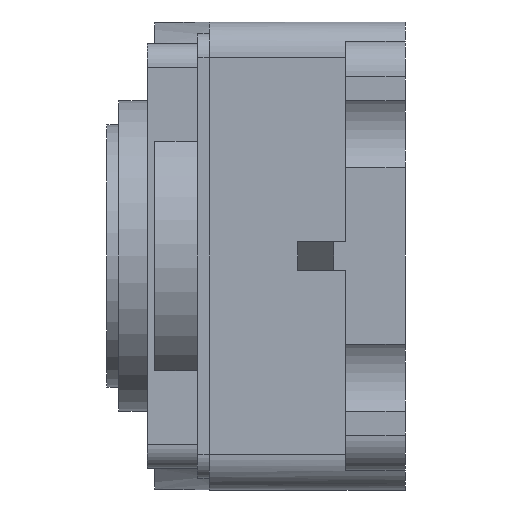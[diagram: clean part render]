
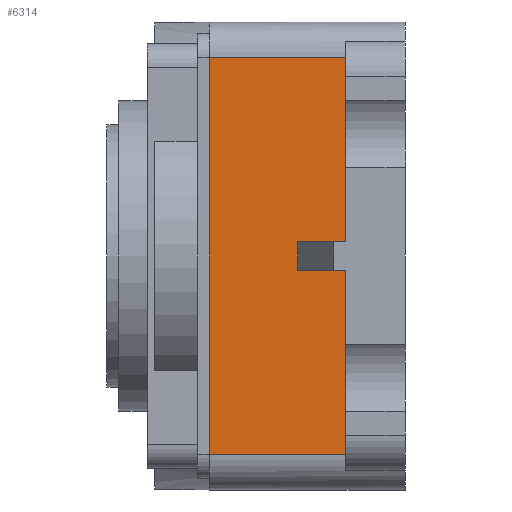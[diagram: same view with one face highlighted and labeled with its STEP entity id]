
A CAD part, front view. The second image highlights one B-rep face of the part: STEP entity #6314.
In plain terms, the highlighted planar face has unit normal (0, -1, 0).
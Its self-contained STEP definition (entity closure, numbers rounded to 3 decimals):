
#377 = CYLINDRICAL_SURFACE('',#378,1.5);
#378 = AXIS2_PLACEMENT_3D('',#379,#380,#381);
#379 = CARTESIAN_POINT('',(50.723,-0.7,252.8));
#380 = DIRECTION('',(1.,0.,0.));
#381 = DIRECTION('',(0.,0.,1.));
#782 = CYLINDRICAL_SURFACE('',#783,1.5);
#783 = AXIS2_PLACEMENT_3D('',#784,#785,#786);
#784 = CARTESIAN_POINT('',(50.723,-0.7,236.2));
#785 = DIRECTION('',(1.,0.,0.));
#786 = DIRECTION('',(0.,-1.,0.));
#2115 = PLANE('',#2116);
#2116 = AXIS2_PLACEMENT_3D('',#2117,#2118,#2119);
#2117 = CARTESIAN_POINT('',(50.8,18.,244.5));
#2118 = DIRECTION('',(-1.,0.,0.));
#2119 = DIRECTION('',(0.,1.,0.));
#2327 = VERTEX_POINT('',#2328);
#2328 = CARTESIAN_POINT('',(50.8,-2.2,236.2));
#2354 = EDGE_CURVE('',#2355,#2327,#2357,.T.);
#2355 = VERTEX_POINT('',#2356);
#2356 = CARTESIAN_POINT('',(50.8,-2.2,252.8));
#2357 = SURFACE_CURVE('',#2358,(#2362,#2369),.PCURVE_S1.);
#2358 = LINE('',#2359,#2360);
#2359 = CARTESIAN_POINT('',(50.8,-2.2,244.5));
#2360 = VECTOR('',#2361,1.);
#2361 = DIRECTION('',(0.,0.,-1.));
#2362 = PCURVE('',#2115,#2363);
#2363 = DEFINITIONAL_REPRESENTATION('',(#2364),#2368);
#2364 = LINE('',#2365,#2366);
#2365 = CARTESIAN_POINT('',(-20.2,0.));
#2366 = VECTOR('',#2367,1.);
#2367 = DIRECTION('',(0.,1.));
#2368 = ( GEOMETRIC_REPRESENTATION_CONTEXT(2) 
PARAMETRIC_REPRESENTATION_CONTEXT() REPRESENTATION_CONTEXT('2D SPACE',''
  ) );
#2369 = PCURVE('',#2370,#2375);
#2370 = PLANE('',#2371);
#2371 = AXIS2_PLACEMENT_3D('',#2372,#2373,#2374);
#2372 = CARTESIAN_POINT('',(59.,-2.2,234.7));
#2373 = DIRECTION('',(0.,-1.,0.));
#2374 = DIRECTION('',(0.,0.,1.));
#2375 = DEFINITIONAL_REPRESENTATION('',(#2376),#2380);
#2376 = LINE('',#2377,#2378);
#2377 = CARTESIAN_POINT('',(9.8,8.2));
#2378 = VECTOR('',#2379,1.);
#2379 = DIRECTION('',(-1.,0.));
#2380 = ( GEOMETRIC_REPRESENTATION_CONTEXT(2) 
PARAMETRIC_REPRESENTATION_CONTEXT() REPRESENTATION_CONTEXT('2D SPACE',''
  ) );
#5197 = EDGE_CURVE('',#2355,#5198,#5200,.T.);
#5198 = VERTEX_POINT('',#5199);
#5199 = CARTESIAN_POINT('',(56.5,-2.2,252.8));
#5200 = SURFACE_CURVE('',#5201,(#5205,#5212),.PCURVE_S1.);
#5201 = LINE('',#5202,#5203);
#5202 = CARTESIAN_POINT('',(50.723,-2.2,252.8));
#5203 = VECTOR('',#5204,1.);
#5204 = DIRECTION('',(1.,0.,0.));
#5205 = PCURVE('',#377,#5206);
#5206 = DEFINITIONAL_REPRESENTATION('',(#5207),#5211);
#5207 = LINE('',#5208,#5209);
#5208 = CARTESIAN_POINT('',(1.571,0.));
#5209 = VECTOR('',#5210,1.);
#5210 = DIRECTION('',(0.,1.));
#5211 = ( GEOMETRIC_REPRESENTATION_CONTEXT(2) 
PARAMETRIC_REPRESENTATION_CONTEXT() REPRESENTATION_CONTEXT('2D SPACE',''
  ) );
#5212 = PCURVE('',#2370,#5213);
#5213 = DEFINITIONAL_REPRESENTATION('',(#5214),#5218);
#5214 = LINE('',#5215,#5216);
#5215 = CARTESIAN_POINT('',(18.1,8.277));
#5216 = VECTOR('',#5217,1.);
#5217 = DIRECTION('',(0.,-1.));
#5218 = ( GEOMETRIC_REPRESENTATION_CONTEXT(2) 
PARAMETRIC_REPRESENTATION_CONTEXT() REPRESENTATION_CONTEXT('2D SPACE',''
  ) );
#5235 = PLANE('',#5236);
#5236 = AXIS2_PLACEMENT_3D('',#5237,#5238,#5239);
#5237 = CARTESIAN_POINT('',(56.5,-8.7,235.5));
#5238 = DIRECTION('',(-1.,0.,0.));
#5239 = DIRECTION('',(0.,0.,1.));
#5418 = EDGE_CURVE('',#5419,#5198,#5421,.T.);
#5419 = VERTEX_POINT('',#5420);
#5420 = CARTESIAN_POINT('',(56.5,-2.2,245.1));
#5421 = SURFACE_CURVE('',#5422,(#5426,#5433),.PCURVE_S1.);
#5422 = LINE('',#5423,#5424);
#5423 = CARTESIAN_POINT('',(56.5,-2.2,234.7));
#5424 = VECTOR('',#5425,1.);
#5425 = DIRECTION('',(0.,0.,1.));
#5426 = PCURVE('',#5235,#5427);
#5427 = DEFINITIONAL_REPRESENTATION('',(#5428),#5432);
#5428 = LINE('',#5429,#5430);
#5429 = CARTESIAN_POINT('',(-0.8,6.5));
#5430 = VECTOR('',#5431,1.);
#5431 = DIRECTION('',(1.,0.));
#5432 = ( GEOMETRIC_REPRESENTATION_CONTEXT(2) 
PARAMETRIC_REPRESENTATION_CONTEXT() REPRESENTATION_CONTEXT('2D SPACE',''
  ) );
#5433 = PCURVE('',#2370,#5434);
#5434 = DEFINITIONAL_REPRESENTATION('',(#5435),#5439);
#5435 = LINE('',#5436,#5437);
#5436 = CARTESIAN_POINT('',(0.,2.5));
#5437 = VECTOR('',#5438,1.);
#5438 = DIRECTION('',(1.,0.));
#5439 = ( GEOMETRIC_REPRESENTATION_CONTEXT(2) 
PARAMETRIC_REPRESENTATION_CONTEXT() REPRESENTATION_CONTEXT('2D SPACE',''
  ) );
#5455 = PLANE('',#5456);
#5456 = AXIS2_PLACEMENT_3D('',#5457,#5458,#5459);
#5457 = CARTESIAN_POINT('',(59.,18.,245.1));
#5458 = DIRECTION('',(0.,0.,1.));
#5459 = DIRECTION('',(0.,1.,0.));
#5470 = EDGE_CURVE('',#5471,#5473,#5475,.T.);
#5471 = VERTEX_POINT('',#5472);
#5472 = CARTESIAN_POINT('',(56.5,-2.2,236.2));
#5473 = VERTEX_POINT('',#5474);
#5474 = CARTESIAN_POINT('',(56.5,-2.2,243.9));
#5475 = SURFACE_CURVE('',#5476,(#5480,#5492),.PCURVE_S1.);
#5476 = LINE('',#5477,#5478);
#5477 = CARTESIAN_POINT('',(56.5,-2.2,234.7));
#5478 = VECTOR('',#5479,1.);
#5479 = DIRECTION('',(0.,0.,1.));
#5480 = PCURVE('',#5481,#5486);
#5481 = PLANE('',#5482);
#5482 = AXIS2_PLACEMENT_3D('',#5483,#5484,#5485);
#5483 = CARTESIAN_POINT('',(56.5,-8.7,235.5));
#5484 = DIRECTION('',(-1.,0.,0.));
#5485 = DIRECTION('',(0.,0.,1.));
#5486 = DEFINITIONAL_REPRESENTATION('',(#5487),#5491);
#5487 = LINE('',#5488,#5489);
#5488 = CARTESIAN_POINT('',(-0.8,6.5));
#5489 = VECTOR('',#5490,1.);
#5490 = DIRECTION('',(1.,0.));
#5491 = ( GEOMETRIC_REPRESENTATION_CONTEXT(2) 
PARAMETRIC_REPRESENTATION_CONTEXT() REPRESENTATION_CONTEXT('2D SPACE',''
  ) );
#5492 = PCURVE('',#2370,#5493);
#5493 = DEFINITIONAL_REPRESENTATION('',(#5494),#5498);
#5494 = LINE('',#5495,#5496);
#5495 = CARTESIAN_POINT('',(0.,2.5));
#5496 = VECTOR('',#5497,1.);
#5497 = DIRECTION('',(1.,0.));
#5498 = ( GEOMETRIC_REPRESENTATION_CONTEXT(2) 
PARAMETRIC_REPRESENTATION_CONTEXT() REPRESENTATION_CONTEXT('2D SPACE',''
  ) );
#5709 = PLANE('',#5710);
#5710 = AXIS2_PLACEMENT_3D('',#5711,#5712,#5713);
#5711 = CARTESIAN_POINT('',(59.,18.,243.9));
#5712 = DIRECTION('',(0.,0.,1.));
#5713 = DIRECTION('',(0.,1.,0.));
#5748 = EDGE_CURVE('',#5419,#5749,#5751,.T.);
#5749 = VERTEX_POINT('',#5750);
#5750 = CARTESIAN_POINT('',(54.5,-2.2,245.1));
#5751 = SURFACE_CURVE('',#5752,(#5756,#5763),.PCURVE_S1.);
#5752 = LINE('',#5753,#5754);
#5753 = CARTESIAN_POINT('',(59.,-2.2,245.1));
#5754 = VECTOR('',#5755,1.);
#5755 = DIRECTION('',(-1.,0.,0.));
#5756 = PCURVE('',#5455,#5757);
#5757 = DEFINITIONAL_REPRESENTATION('',(#5758),#5762);
#5758 = LINE('',#5759,#5760);
#5759 = CARTESIAN_POINT('',(-20.2,0.));
#5760 = VECTOR('',#5761,1.);
#5761 = DIRECTION('',(0.,1.));
#5762 = ( GEOMETRIC_REPRESENTATION_CONTEXT(2) 
PARAMETRIC_REPRESENTATION_CONTEXT() REPRESENTATION_CONTEXT('2D SPACE',''
  ) );
#5763 = PCURVE('',#2370,#5764);
#5764 = DEFINITIONAL_REPRESENTATION('',(#5765),#5769);
#5765 = LINE('',#5766,#5767);
#5766 = CARTESIAN_POINT('',(10.4,0.));
#5767 = VECTOR('',#5768,1.);
#5768 = DIRECTION('',(0.,1.));
#5769 = ( GEOMETRIC_REPRESENTATION_CONTEXT(2) 
PARAMETRIC_REPRESENTATION_CONTEXT() REPRESENTATION_CONTEXT('2D SPACE',''
  ) );
#5785 = PLANE('',#5786);
#5786 = AXIS2_PLACEMENT_3D('',#5787,#5788,#5789);
#5787 = CARTESIAN_POINT('',(55.25,-5.45,244.5));
#5788 = DIRECTION('',(-0.974,-0.225,0.));
#5789 = DIRECTION('',(-0.225,0.974,0.));
#5824 = EDGE_CURVE('',#5749,#5825,#5827,.T.);
#5825 = VERTEX_POINT('',#5826);
#5826 = CARTESIAN_POINT('',(54.5,-2.2,243.9));
#5827 = SURFACE_CURVE('',#5828,(#5832,#5839),.PCURVE_S1.);
#5828 = LINE('',#5829,#5830);
#5829 = CARTESIAN_POINT('',(54.5,-2.2,244.5));
#5830 = VECTOR('',#5831,1.);
#5831 = DIRECTION('',(0.,0.,-1.));
#5832 = PCURVE('',#5785,#5833);
#5833 = DEFINITIONAL_REPRESENTATION('',(#5834),#5838);
#5834 = LINE('',#5835,#5836);
#5835 = CARTESIAN_POINT('',(3.335,0.));
#5836 = VECTOR('',#5837,1.);
#5837 = DIRECTION('',(0.,1.));
#5838 = ( GEOMETRIC_REPRESENTATION_CONTEXT(2) 
PARAMETRIC_REPRESENTATION_CONTEXT() REPRESENTATION_CONTEXT('2D SPACE',''
  ) );
#5839 = PCURVE('',#2370,#5840);
#5840 = DEFINITIONAL_REPRESENTATION('',(#5841),#5845);
#5841 = LINE('',#5842,#5843);
#5842 = CARTESIAN_POINT('',(9.8,4.5));
#5843 = VECTOR('',#5844,1.);
#5844 = DIRECTION('',(-1.,0.));
#5845 = ( GEOMETRIC_REPRESENTATION_CONTEXT(2) 
PARAMETRIC_REPRESENTATION_CONTEXT() REPRESENTATION_CONTEXT('2D SPACE',''
  ) );
#5871 = EDGE_CURVE('',#5473,#5825,#5872,.T.);
#5872 = SURFACE_CURVE('',#5873,(#5877,#5884),.PCURVE_S1.);
#5873 = LINE('',#5874,#5875);
#5874 = CARTESIAN_POINT('',(59.,-2.2,243.9));
#5875 = VECTOR('',#5876,1.);
#5876 = DIRECTION('',(-1.,0.,0.));
#5877 = PCURVE('',#5709,#5878);
#5878 = DEFINITIONAL_REPRESENTATION('',(#5879),#5883);
#5879 = LINE('',#5880,#5881);
#5880 = CARTESIAN_POINT('',(-20.2,0.));
#5881 = VECTOR('',#5882,1.);
#5882 = DIRECTION('',(0.,1.));
#5883 = ( GEOMETRIC_REPRESENTATION_CONTEXT(2) 
PARAMETRIC_REPRESENTATION_CONTEXT() REPRESENTATION_CONTEXT('2D SPACE',''
  ) );
#5884 = PCURVE('',#2370,#5885);
#5885 = DEFINITIONAL_REPRESENTATION('',(#5886),#5890);
#5886 = LINE('',#5887,#5888);
#5887 = CARTESIAN_POINT('',(9.2,0.));
#5888 = VECTOR('',#5889,1.);
#5889 = DIRECTION('',(0.,1.));
#5890 = ( GEOMETRIC_REPRESENTATION_CONTEXT(2) 
PARAMETRIC_REPRESENTATION_CONTEXT() REPRESENTATION_CONTEXT('2D SPACE',''
  ) );
#6179 = EDGE_CURVE('',#5471,#2327,#6180,.T.);
#6180 = SURFACE_CURVE('',#6181,(#6185,#6192),.PCURVE_S1.);
#6181 = LINE('',#6182,#6183);
#6182 = CARTESIAN_POINT('',(59.,-2.2,236.2));
#6183 = VECTOR('',#6184,1.);
#6184 = DIRECTION('',(-1.,0.,0.));
#6185 = PCURVE('',#782,#6186);
#6186 = DEFINITIONAL_REPRESENTATION('',(#6187),#6191);
#6187 = LINE('',#6188,#6189);
#6188 = CARTESIAN_POINT('',(0.,8.277));
#6189 = VECTOR('',#6190,1.);
#6190 = DIRECTION('',(0.,-1.));
#6191 = ( GEOMETRIC_REPRESENTATION_CONTEXT(2) 
PARAMETRIC_REPRESENTATION_CONTEXT() REPRESENTATION_CONTEXT('2D SPACE',''
  ) );
#6192 = PCURVE('',#2370,#6193);
#6193 = DEFINITIONAL_REPRESENTATION('',(#6194),#6198);
#6194 = LINE('',#6195,#6196);
#6195 = CARTESIAN_POINT('',(1.5,0.));
#6196 = VECTOR('',#6197,1.);
#6197 = DIRECTION('',(0.,1.));
#6198 = ( GEOMETRIC_REPRESENTATION_CONTEXT(2) 
PARAMETRIC_REPRESENTATION_CONTEXT() REPRESENTATION_CONTEXT('2D SPACE',''
  ) );
#6314 = ADVANCED_FACE('',(#6315),#2370,.T.);
#6315 = FACE_BOUND('',#6316,.T.);
#6316 = EDGE_LOOP('',(#6317,#6318,#6319,#6320,#6321,#6322,#6323,#6324));
#6317 = ORIENTED_EDGE('',*,*,#5748,.F.);
#6318 = ORIENTED_EDGE('',*,*,#5418,.T.);
#6319 = ORIENTED_EDGE('',*,*,#5197,.F.);
#6320 = ORIENTED_EDGE('',*,*,#2354,.T.);
#6321 = ORIENTED_EDGE('',*,*,#6179,.F.);
#6322 = ORIENTED_EDGE('',*,*,#5470,.T.);
#6323 = ORIENTED_EDGE('',*,*,#5871,.T.);
#6324 = ORIENTED_EDGE('',*,*,#5824,.F.);
